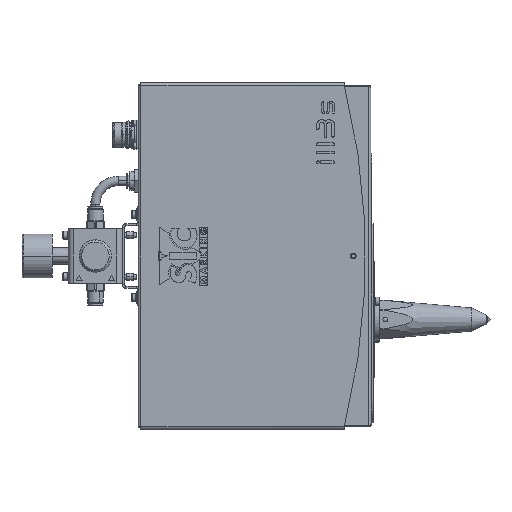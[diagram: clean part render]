
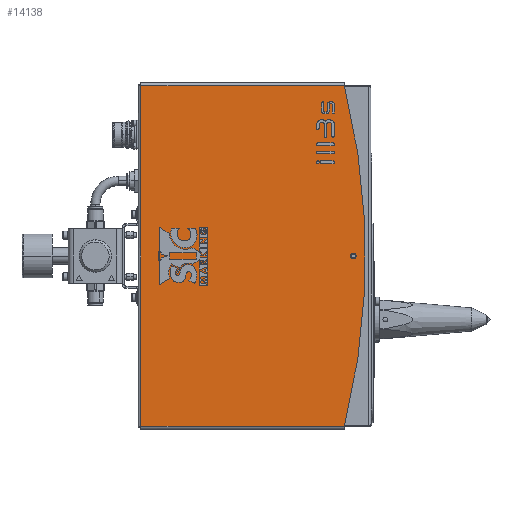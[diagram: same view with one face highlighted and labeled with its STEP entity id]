
A CAD part, left-side view. The second image highlights one B-rep face of the part: STEP entity #14138.
In plain terms, the highlighted planar face has unit normal (-1, 0, 0).
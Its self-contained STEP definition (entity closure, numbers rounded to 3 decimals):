
#1327 = VERTEX_POINT ( 'NONE', #5204 ) ;
#1349 = VERTEX_POINT ( 'NONE', #5207 ) ;
#1849 = EDGE_LOOP ( 'NONE', ( #1964, #1966 ) ) ;
#1964 = ORIENTED_EDGE ( 'NONE', *, *, #25446, .F. ) ;
#1966 = ORIENTED_EDGE ( 'NONE', *, *, #25330, .F. ) ;
#1968 = ORIENTED_EDGE ( 'NONE', *, *, #25447, .F. ) ;
#1970 = ORIENTED_EDGE ( 'NONE', *, *, #25440, .T. ) ;
#1972 = ORIENTED_EDGE ( 'NONE', *, *, #25405, .F. ) ;
#1974 = ORIENTED_EDGE ( 'NONE', *, *, #25369, .F. ) ;
#2057 = EDGE_LOOP ( 'NONE', ( #1968, #1970, #1972, #1974 ) ) ;
#2235 = VERTEX_POINT ( 'NONE', #5361 ) ;
#2331 = VERTEX_POINT ( 'NONE', #5400 ) ;
#5204 = CARTESIAN_POINT ( 'NONE',  ( -230., -93.2, -147.5 ) ) ;
#5207 = CARTESIAN_POINT ( 'NONE',  ( -230., -93.2, 147.5 ) ) ;
#5361 = CARTESIAN_POINT ( 'NONE',  ( -230., 82.8, -147.5 ) ) ;
#5400 = CARTESIAN_POINT ( 'NONE',  ( -230., 82.8, 147.5 ) ) ;
#6066 = CARTESIAN_POINT ( 'NONE',  ( -230., -93.2, 150. ) ) ;
#6078 = FACE_BOUND ( 'NONE', #1849, .T. ) ;
#6079 = FACE_OUTER_BOUND ( 'NONE', #2057, .T. ) ;
#6080 = PLANE ( 'NONE',  #12388 ) ;
#6082 = DIRECTION ( 'NONE',  ( 1., 0., 0. ) ) ;
#6083 = DIRECTION ( 'NONE',  ( 0., 0., -1. ) ) ;
#7433 = CARTESIAN_POINT ( 'NONE',  ( -230., -101.2, 2.5 ) ) ;
#7435 = CARTESIAN_POINT ( 'NONE',  ( -230., -101.2, -2.5 ) ) ;
#8340 = CARTESIAN_POINT ( 'NONE',  ( -230., -101.2, 0. ) ) ;
#8341 = DIRECTION ( 'NONE',  ( -1., 0., 0. ) ) ;
#8342 = DIRECTION ( 'NONE',  ( 0., 0., 1. ) ) ;
#8456 = LINE ( 'NONE', #8457, #25855 ) ;
#8457 = CARTESIAN_POINT ( 'NONE',  ( -230., 82.8, -150. ) ) ;
#8458 = DIRECTION ( 'NONE',  ( 0., 0., 1. ) ) ;
#8570 = LINE ( 'NONE', #8571, #25895 ) ;
#8571 = CARTESIAN_POINT ( 'NONE',  ( -230., 85.3, 147.5 ) ) ;
#8572 = DIRECTION ( 'NONE',  ( 0., -1., 0. ) ) ;
#8673 = CARTESIAN_POINT ( 'NONE',  ( -230., 488.387, 0. ) ) ;
#8674 = DIRECTION ( 'NONE',  ( -1., 0., 0. ) ) ;
#8675 = DIRECTION ( 'NONE',  ( 0., 0., 1. ) ) ;
#8681 = CARTESIAN_POINT ( 'NONE',  ( -230., -1593.2, -147.5 ) ) ;
#8686 = LINE ( 'NONE', #8681, #25951 ) ;
#8694 = CARTESIAN_POINT ( 'NONE',  ( -230., -101.2, 0. ) ) ;
#8695 = DIRECTION ( 'NONE',  ( -1., 0., 0. ) ) ;
#8696 = DIRECTION ( 'NONE',  ( 0., 0., 1. ) ) ;
#8697 = DIRECTION ( 'NONE',  ( 0., 1., 0. ) ) ;
#12388 = AXIS2_PLACEMENT_3D ( 'NONE', #6066, #6082, #6083 ) ;
#14138 = ADVANCED_FACE ( 'NONE', ( #6078, #6079 ), #6080, .F. ) ;
#21652 = VERTEX_POINT ( 'NONE', #7433 ) ;
#21654 = VERTEX_POINT ( 'NONE', #7435 ) ;
#25330 = EDGE_CURVE ( 'NONE', #21654, #21652, #25802, .T. ) ;
#25369 = EDGE_CURVE ( 'NONE', #2235, #2331, #8456, .T. ) ;
#25405 = EDGE_CURVE ( 'NONE', #2331, #1349, #8570, .T. ) ;
#25440 = EDGE_CURVE ( 'NONE', #1327, #1349, #25940, .T. ) ;
#25446 = EDGE_CURVE ( 'NONE', #21652, #21654, #25950, .T. ) ;
#25447 = EDGE_CURVE ( 'NONE', #1327, #2235, #8686, .T. ) ;
#25802 = CIRCLE ( 'NONE', #25804, 2.5 ) ;
#25804 = AXIS2_PLACEMENT_3D ( 'NONE', #8340, #8341, #8342 ) ;
#25855 = VECTOR ( 'NONE', #8458, 1000. ) ;
#25895 = VECTOR ( 'NONE', #8572, 1000. ) ;
#25940 = CIRCLE ( 'NONE', #25944, 600. ) ;
#25944 = AXIS2_PLACEMENT_3D ( 'NONE', #8673, #8674, #8675 ) ;
#25950 = CIRCLE ( 'NONE', #25952, 2.5 ) ;
#25951 = VECTOR ( 'NONE', #8697, 1000. ) ;
#25952 = AXIS2_PLACEMENT_3D ( 'NONE', #8694, #8695, #8696 ) ;
